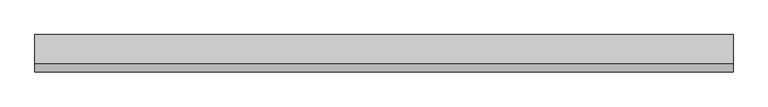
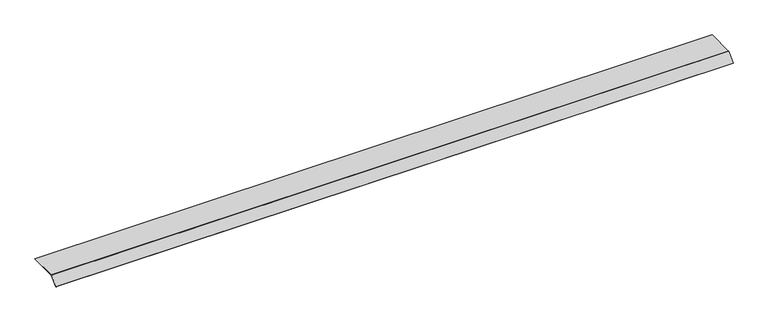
"""IFC4 building model written with IfcOpenShell, lengths in millimetres: proxy geometry, Electrical_Installation_Hager_Blank-Cover-400mm-Double-Sided-Extended-100-Height-70mm : Electrical_Installation_Hager_Blank-Cover-400mm-Double-Sided-Extended-100-Height-70mm."""

from ifc_helpers import new_model, si_unit, point, frame, frame_2d, origin, place, context, project, spatial, polyline, circle_curve, trimmed, segment, composite_curve, outline, extrude, source, transform, mapped, element, save


def electrical_fixtures_a9ae5c8e(model_context):
    return source(origin(), model_context, "Body", "SweptSolid", [
        extrude(outline(composite_curve([segment(polyline([(176.39204, 40.5), (176.39204, 37.5), (-74.8229541, 37.5)]), True, "CONTINUOUS"), segment(trimmed(circle_curve(frame_2d((-74.8229541, 36.0725733)), 1.4274267), [point((-74.8229541, 37.5))], [point((-75.8322972, 37.0819164))], True, "CARTESIAN"), True, "CONTINUOUS"), segment(polyline([(-75.8322972, 37.0819164), (-143.6627596, -30.7485461), (-145.78408, -28.6272257), (-77.8206472, 39.336207)]), True, "CONTINUOUS"), segment(trimmed(circle_curve(frame_2d((-75.0110025, 36.5265623)), 3.9734377), [point((-77.8206472, 39.336207))], [point((-75.0110025, 40.5))], False, "CARTESIAN"), True, "CONTINUOUS"), segment(polyline([(-75.0110025, 40.5), (176.39204, 40.5)]), True, "CONTINUOUS")], self_intersect=False)), frame((0.0, 0.0, 0.0), z_axis=(1.0, 0.0, 0.0), x_axis=(0.0, 1.0, 0.0)), (0.0, 0.0, 1.0), 6011.6956759),
    ])


if __name__ == "__main__":
    model = new_model("IFC4")
    model_context = context("Model", 3, world=origin())
    ifc_project = project(units=[si_unit("LENGTHUNIT", "METRE", prefix="MILLI")], contexts=[model_context])
    site = spatial("IfcSite", under=ifc_project)
    building = spatial("IfcBuilding", under=site)
    placement = place(None, origin())
    electrical_fixtures_shape = electrical_fixtures_a9ae5c8e(model_context)
    element("IfcBuildingElementProxy", 1, Name="Electrical_Installation_Hager_Blank-Cover-400mm-Double-Sided-Extended-100-Height-70mm : Electrical_Installation_Hager_Blank-Cover-400mm-Double-Sided-Extended-100-Height-70mm", ObjectType="Electrical_Installation_Hager_Blank-Cover-400mm-Double-Sided-Extended-100-Height-70mm : Electrical_Installation_Hager_Blank-Cover-400mm-Double-Sided-Extended-100-Height-70mm", at=placement, inside=building, context=model_context, shape_type="MappedRepresentation", body=[
        mapped(electrical_fixtures_shape, transform((0.0, 0.0, 0.0), x_axis=(1.0, 0.0, 0.0), y_axis=(0.0, 1.0, 0.0), z_axis=(0.0, 0.0, 1.0))),
    ])
    save(model, "model.ifc")
